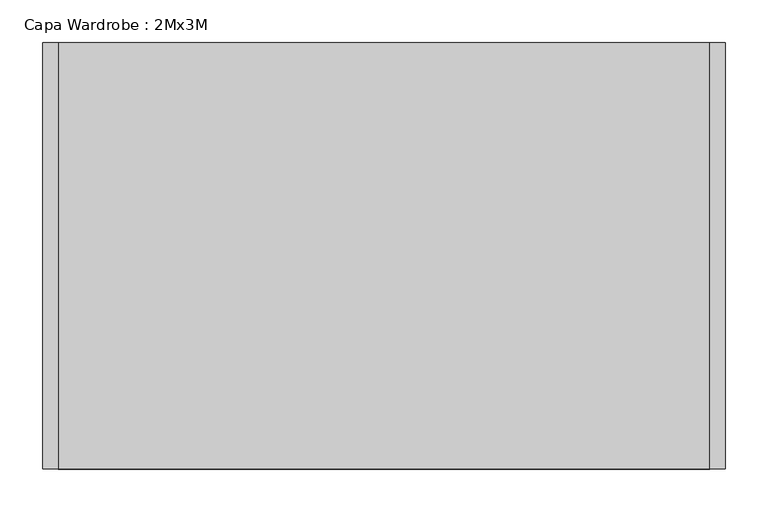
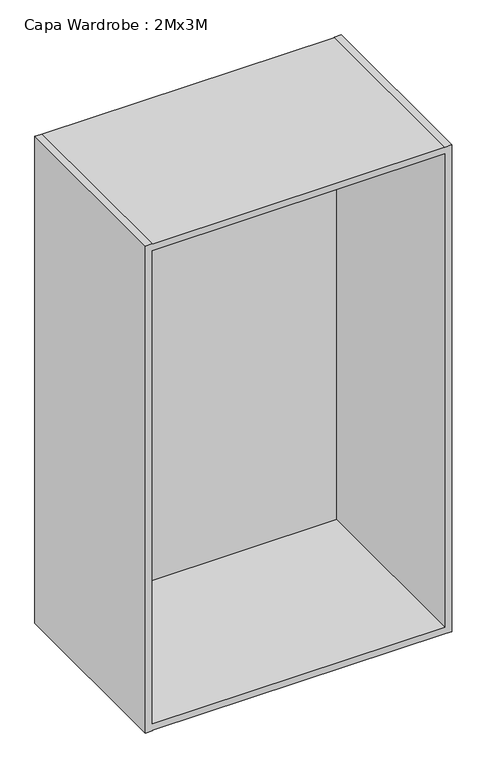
"""IFC4 building model written with IfcOpenShell, lengths in millimetres: furniture geometry, Capa Wardrobe : 2Mx3M."""

from ifc_helpers import new_model, si_unit, point, frame, frame_2d, origin, place, context, project, spatial, polyline, circle_curve, trimmed, segment, composite_curve, outline, extrude, faceted_brep, source, transform, mapped, element, save


def capa_wardrobe_2mx3m_ffd945b1(model_context):
    return source(origin(), model_context, "Body", "SolidModel", [
        extrude(outline(composite_curve([segment(polyline([(-250.0, 1244.0), (-250.0, 1224.0)]), True, "CONTINUOUS"), segment(trimmed(circle_curve(frame_2d((-258.0, 1224.0)), 8.0), [point((-250.0, 1224.0))], [point((-266.0, 1224.0))], False, "CARTESIAN"), True, "CONTINUOUS"), segment(polyline([(-266.0, 1224.0), (-266.0, 1244.0)]), True, "CONTINUOUS"), segment(trimmed(circle_curve(frame_2d((-258.0, 1244.0)), 8.0), [point((-266.0, 1244.0))], [point((-250.0, 1244.0))], False, "CARTESIAN"), True, "CONTINUOUS")], self_intersect=False)), frame((-382.0, 0.0, 0.0), z_axis=(1.0, 0.0, 0.0), x_axis=(0.0, 1.0, 0.0)), (0.0, 0.0, 1.0), 764.0),
        faceted_brep([(-382.0, 0.0, 1344.0), (-382.0, 0.0, 1343.0), (382.0, 0.0, 1343.0), (382.0, 0.0, 1344.0), (400.0, 0.0, 1344.0), (400.0, 0.0, 0.0), (382.0, 0.0, 0.0), (382.0, 0.0, 1.0), (-382.0, 0.0, 1.0), (-382.0, 0.0, 0.0), (-400.0, 0.0, 0.0), (-400.0, 0.0, 1344.0), (382.0, -10.0, 19.0), (382.0, -10.0, 1325.0), (-382.0, -10.0, 1325.0), (-382.0, -10.0, 19.0), (-382.0, -500.0, 1344.0), (-400.0, -500.0, 1344.0), (-400.0, -500.0, 0.0), (-382.0, -500.0, 0.0), (-382.0, -500.0, 1.0), (382.0, -500.0, 1.0), (382.0, -500.0, 0.0), (400.0, -500.0, 0.0), (400.0, -500.0, 1344.0), (382.0, -500.0, 1344.0), (382.0, -500.0, 1343.0), (-382.0, -500.0, 1343.0), (382.0, -500.0, 1325.0), (382.0, -500.0, 19.0), (-382.0, -500.0, 19.0), (-382.0, -500.0, 1325.0)], [[[0, 1, 2, 3, 4, 5, 6, 7, 8, 9, 10, 11]], [[12, 13, 14, 15]], [[16, 17, 18, 19, 20, 21, 22, 23, 24, 25, 26, 27], [28, 29, 30, 31]], [[17, 16, 0, 11]], [[18, 17, 11, 10]], [[23, 22, 6, 5]], [[24, 23, 5, 4]], [[19, 18, 10, 9]], [[20, 19, 9, 8]], [[21, 20, 8, 7]], [[22, 21, 7, 6]], [[25, 24, 4, 3]], [[26, 25, 3, 2]], [[27, 26, 2, 1]], [[16, 27, 1, 0]], [[29, 28, 13, 12]], [[30, 29, 12, 15]], [[31, 30, 15, 14]], [[28, 31, 14, 13]]]),
    ])


if __name__ == "__main__":
    model = new_model("IFC4")
    model_context = context("Model", 3, world=origin())
    ifc_project = project(units=[si_unit("LENGTHUNIT", "METRE", prefix="MILLI")], contexts=[model_context])
    site = spatial("IfcSite", under=ifc_project)
    building = spatial("IfcBuilding", under=site)
    placement = place(None, origin())
    capa_wardrobe_2mx3m_shape = capa_wardrobe_2mx3m_ffd945b1(model_context)
    element("IfcFurniture", 1, ObjectType="Capa Wardrobe : 2Mx3M", at=placement, inside=building, context=model_context, shape_type="MappedRepresentation", body=[
        mapped(capa_wardrobe_2mx3m_shape, transform((0.0, 0.0, 0.0), x_axis=(1.0, 0.0, 0.0), y_axis=(0.0, 1.0, 0.0), z_axis=(0.0, 0.0, 1.0))),
    ])
    save(model, "model.ifc")
